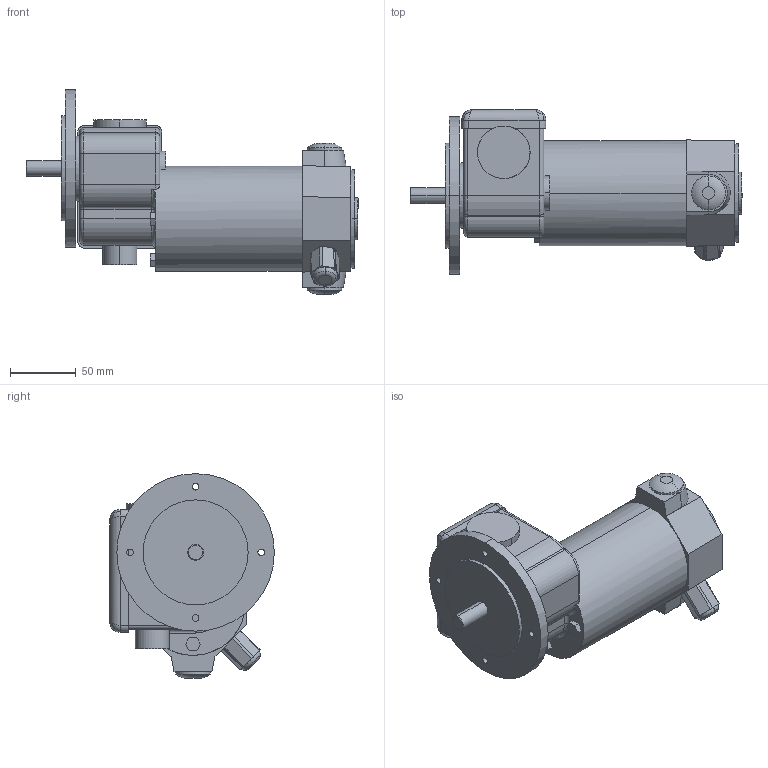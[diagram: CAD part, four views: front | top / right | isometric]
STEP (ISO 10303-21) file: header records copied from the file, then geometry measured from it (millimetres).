
FILE_DESCRIPTION(('OneSpaceDesigner STEP Export'),'2;1');
FILE_NAME('EPG12_GF23.stp','2008-07-16T13:01:22',(''),(''),'OneSpace Designer STEP processor (Jan. 2003) for AP214(CD)(Solid Model)','OneSpace Designer 12.01D 09-Jul-2004 (C) CoCreate Software GmbH','');
FILE_SCHEMA(('AUTOMOTIVE_DESIGN_CC2 {1 2 10303 214 -1 1 5 1}'));
Length unit declared in the file: millimetre
Products named in the file (2): EPG12_GF23
Assembly tree (1 placements, depth 2):
  EPG12_GF23
    EPG12_GF23
Bounding box: 253 x 125.5 x 156 mm (x, y, z)
Volume: 1424437.1 mm3; surface area: 109818 mm2
Topology: 1 solids, 1 shells, 162 faces, 401 edges, 254 vertices
Faces by surface type: cylinder 63, plane 62, torus 20, bspline 14, cone 2, sphere 1
Entity records: 8114 total; most frequent: CARTESIAN_POINT 4443, ORIENTED_EDGE 800, DIRECTION 662, EDGE_CURVE 400, VERTEX_POINT 254, AXIS2_PLACEMENT_3D 234, VECTOR 194, LINE 194
